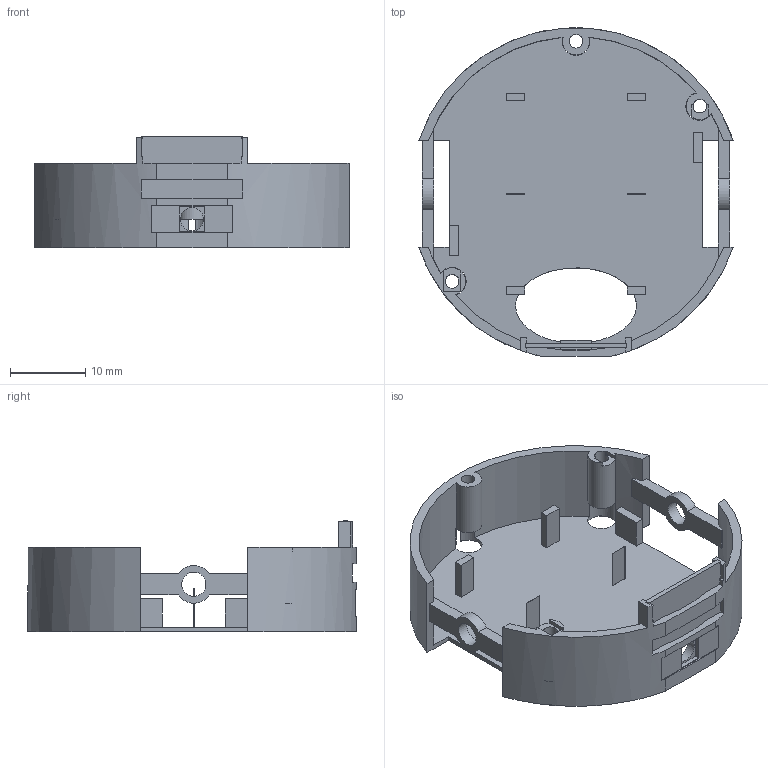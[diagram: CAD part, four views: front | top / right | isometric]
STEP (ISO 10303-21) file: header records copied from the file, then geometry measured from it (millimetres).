
FILE_DESCRIPTION(('Open CASCADE Model'),'2;1');
FILE_NAME('Open CASCADE Shape Model','2026-09-25T10:24:49',('Author'),( 'Open CASCADE'),'Open CASCADE STEP processor 7.9','Open CASCADE 7.9' ,'Unknown');
FILE_SCHEMA(('AUTOMOTIVE_DESIGN { 1 0 10303 214 1 1 1 1 }'));
Length unit declared in the file: millimetre
Products named in the file (1): Open CASCADE STEP translator 7.9 3
Bounding box: 41.65 x 43.5 x 14.8 mm (x, y, z)
Volume: 2366.8 mm3; surface area: 5946.8 mm2
Topology: 1 solids, 1 shells, 170 faces, 512 edges, 340 vertices
Faces by surface type: plane 139, cylinder 30, extrusion 1
Full cylindrical faces by diameter (mm): 1.8 x3, 3.1 x1, 3.2 x5, 3.7 x2
Entity records: 13749 total; most frequent: CARTESIAN_POINT 4242, DIRECTION 1545, ORIENTED_EDGE 1024, PCURVE 1024, DEFINITIONAL_REPRESENTATION 1024, VECTOR 878, LINE 877, EDGE_CURVE 512
